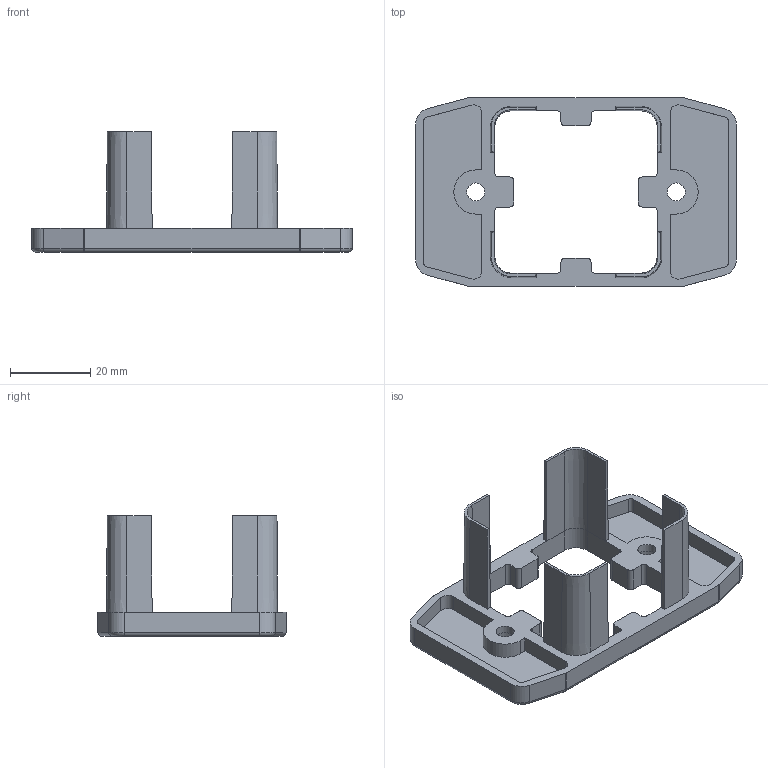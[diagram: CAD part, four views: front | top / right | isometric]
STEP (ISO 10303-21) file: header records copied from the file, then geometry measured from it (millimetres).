
FILE_DESCRIPTION((''),'2;1');
FILE_NAME('E:\catalogue and flyer\Profile catalogue 2015\Accessories ACC info\Accessories ACC step file 31Mar16\ACC-ECSC8 80x47.stp','2016-03-31T14:49:12',('h029'),(''),'Autodesk Inventor 11','Autodesk Inventor 11','');
FILE_SCHEMA(('AUTOMOTIVE_DESIGN { 1 0 10303 214 1 1 1 1 }'));
Length unit declared in the file: millimetre
Products named in the file (1): TS8 80x47
Bounding box: 80 x 47 x 30 mm (x, y, z)
Volume: 10001 mm3; surface area: 11757.1 mm2
Topology: 1 solids, 1 shells, 142 faces, 376 edges, 236 vertices
Faces by surface type: plane 67, cylinder 45, bspline 14, cone 8, torus 4, sphere 4
Full cylindrical faces by diameter (mm): 4.5 x1, 7.5 x1
Entity records: 4423 total; most frequent: CARTESIAN_POINT 861, DIRECTION 741, ORIENTED_EDGE 736, EDGE_CURVE 368, VECTOR 251, LINE 251, AXIS2_PLACEMENT_3D 245, VERTEX_POINT 236
